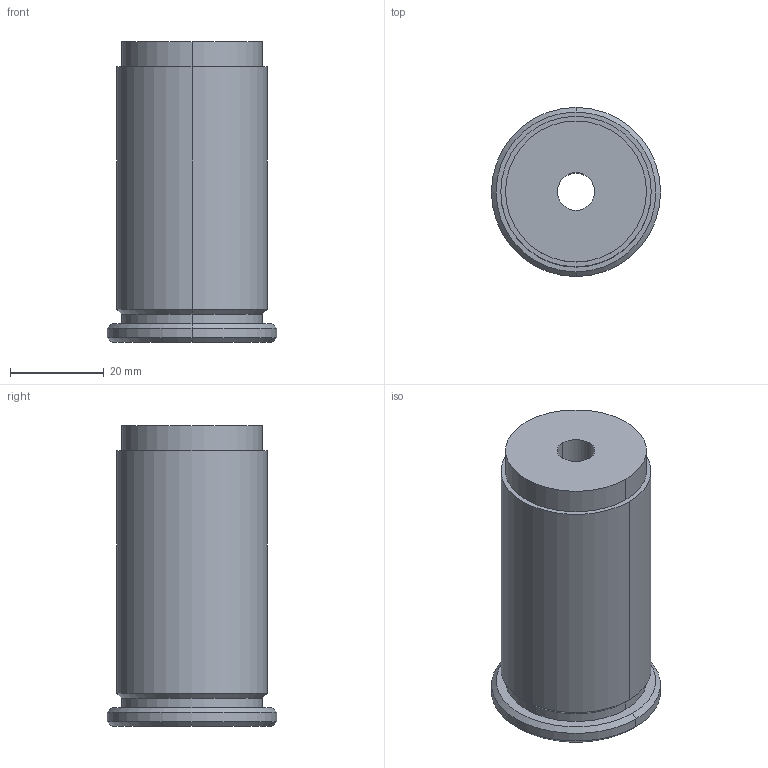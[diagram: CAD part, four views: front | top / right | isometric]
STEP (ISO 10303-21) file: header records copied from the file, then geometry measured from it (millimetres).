
FILE_DESCRIPTION(('no description'),'unknown implementation level');
FILE_NAME('solidWB_UctfbevWvBye4PePPZkRNQ3g_1.STP',' ',('CIMSOURCE GmbH'),('CADClick - KiM GmbH - www.kimweb.de'),'unknown preprocess','ACIS','unknown authorization');
FILE_SCHEMA(('automotive_design'));
Length unit declared in the file: millimetre
Products named in the file (1): NOCUT
Bounding box: 36 x 36 x 64 mm (x, y, z)
Volume: 48233 mm3; surface area: 9986.5 mm2
Topology: 1 solids, 1 shells, 32 faces, 73 edges, 46 vertices
Faces by surface type: cylinder 17, plane 9, cone 6
Entity records: 1899 total; most frequent: CARTESIAN_POINT 267, DIRECTION 172, STYLED_ITEM 152, PRESENTATION_STYLE_ASSIGNMENT 152, COLOUR_RGB 152, ORIENTED_EDGE 146, EDGE_CURVE 73, CURVE_STYLE 73
